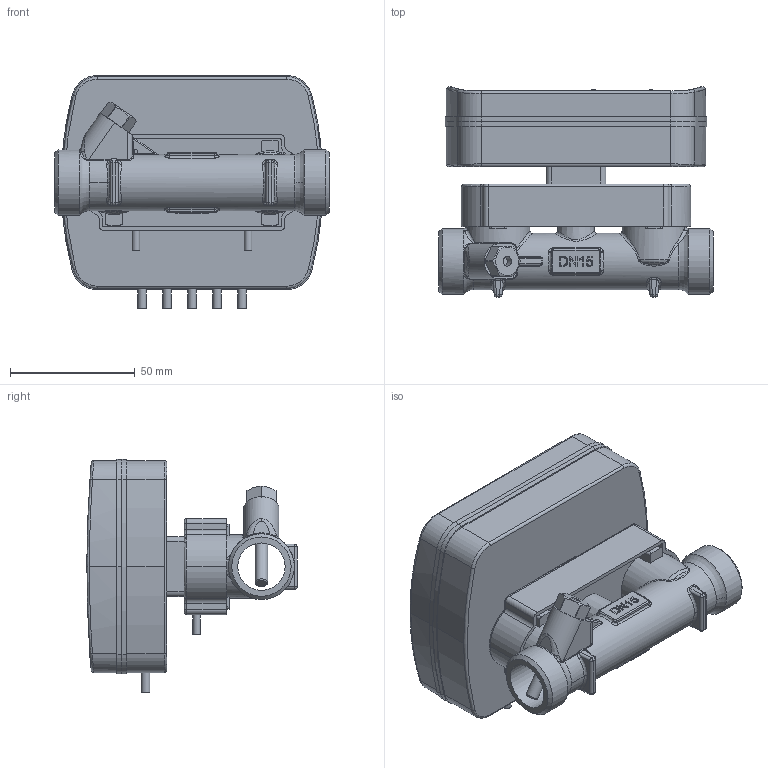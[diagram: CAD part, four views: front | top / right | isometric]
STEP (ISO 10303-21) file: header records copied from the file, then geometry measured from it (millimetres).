
FILE_DESCRIPTION(('TFLEX Exchange Step'),'2;1');
FILE_NAME('Meter VT.TSU-15.stp', '2023-08-31T14:33:11+03:00',('denis'),('Unknown organisation'),'TFLEX Exchange 2023.0','T-FLEX CAD','Unknown authorisation');
FILE_SCHEMA( ('AUTOMOTIVE_DESIGN { 1 0 10303 214 1 1 1 1 }') );
Length unit declared in the file: millimetre
Products named in the file (1): Nodes
Bounding box: 110 x 84.3 x 93.5 mm (x, y, z)
Volume: 331161.4 mm3; surface area: 82618.6 mm2
Topology: 84 solids, 84 shells, 1668 faces, 4274 edges, 2802 vertices
Faces by surface type: plane 822, bspline 569, cylinder 213, torus 40, cone 10, sphere 10, extrusion 4
Full cylindrical faces by diameter (mm): 1.5 x3, 3 x5, 3.5 x10, 4 x1, 5 x1, 6 x1, 8.5 x2, 8.917 x1, 10 x1, 13 x2, 15 x2, 17 x2, 19 x1, 22.6 x1, 25.6 x2, 26.4 x2
Entity records: 71808 total; most frequent: CARTESIAN_POINT 34543, ORIENTED_EDGE 8528, DIRECTION 5953, EDGE_CURVE 4264, VERTEX_POINT 2802, VECTOR 2515, LINE 2511, EDGE_LOOP 1766
